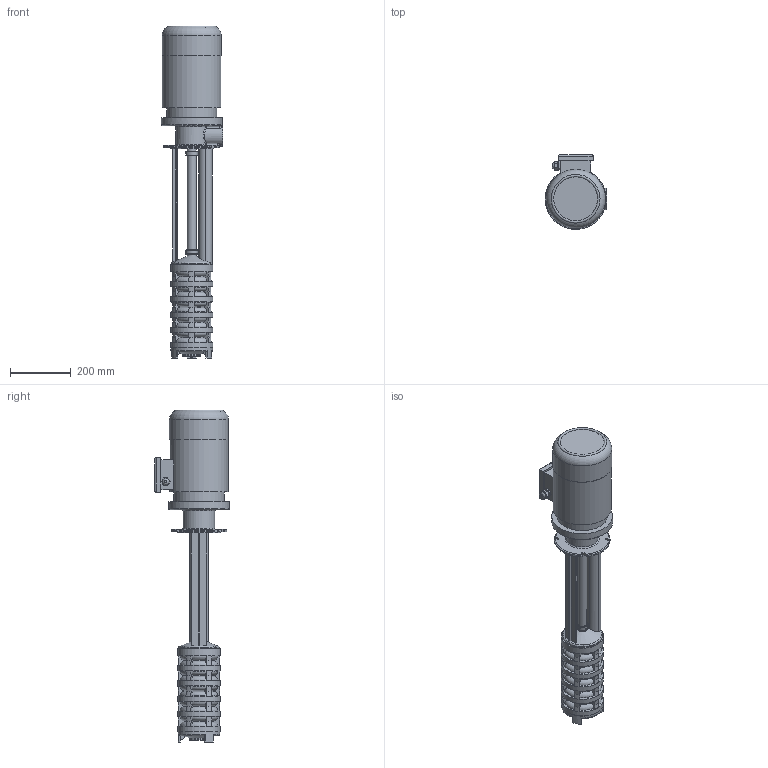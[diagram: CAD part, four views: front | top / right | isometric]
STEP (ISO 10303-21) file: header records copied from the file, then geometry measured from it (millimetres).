
FILE_DESCRIPTION(/* description */ ('Unknown'),/* implementation_level */ '2;1');
FILE_NAME(/* name */ 'gp6-690',/* time_stamp */ '2025-06-17T14:03:41+03:00',/* author */ ('Unknown'),/* organization */ ('Unknown'),/* preprocessor_version */ 'ST-DEVELOPER v16.7',/* originating_system */ 'DEX',/* authorisation */ $);
FILE_SCHEMA (('AUTOMOTIVE_DESIGN {1 0 10303 214 3 1 1}'));
Length unit declared in the file: millimetre
Products named in the file (1): gp6-690
Bounding box: 202 x 245.5 x 1090.49 mm (x, y, z)
Volume: 16082685.1 mm3; surface area: 725931.6 mm2
Topology: 1 solids, 1 shells, 519 faces, 1394 edges, 908 vertices
Faces by surface type: plane 170, cylinder 101, cone 87, bspline 84, torus 77
Full cylindrical faces by diameter (mm): 17 x1, 21.5 x1, 29 x3, 33 x2, 35 x2, 39 x2, 40.5 x2, 45 x1, 47 x1, 60 x1, 137 x1, 139 x6, 140 x1, 165 x1, 192.353 x1, 194 x1, 200 x1
Entity records: 18825 total; most frequent: CARTESIAN_POINT 6351, ORIENTED_EDGE 2630, DIRECTION 2499, EDGE_CURVE 1315, AXIS2_PLACEMENT_3D 955, VERTEX_POINT 889, EDGE_LOOP 614, FACE_BOUND 614
